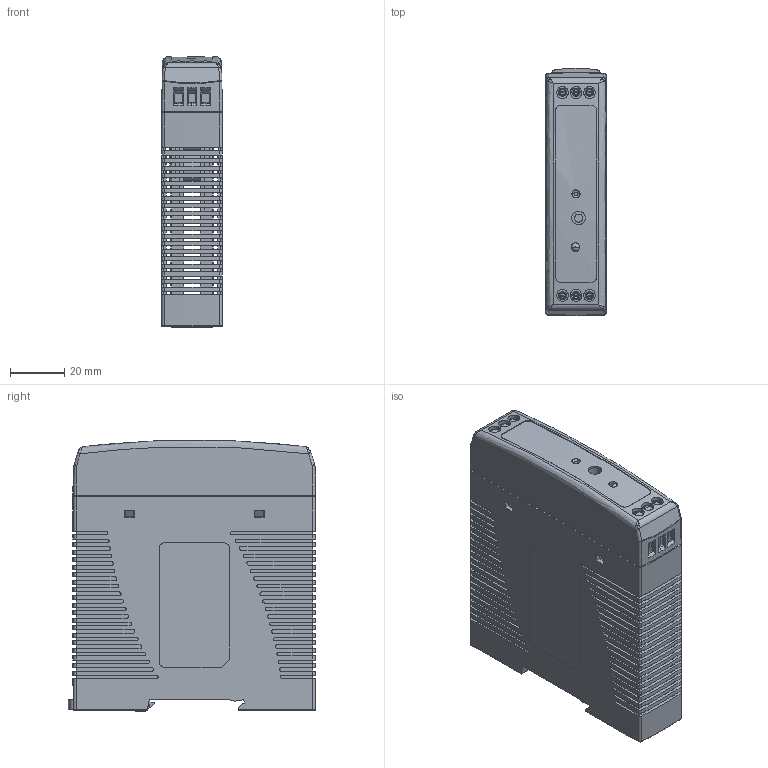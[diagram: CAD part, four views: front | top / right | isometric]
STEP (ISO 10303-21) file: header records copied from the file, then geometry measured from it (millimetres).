
FILE_DESCRIPTION(('OneSpaceDesigner STEP Export'),'2;1');
FILE_NAME('MDR-10&20.stp','2010-06-08T10:42:45',(''),(''),'OneSpace Designer STEP processor for AP214 (Solid Model)','OneSpace Designer 13.20 11-May-2005 (C) CoCreate Software GmbH','');
FILE_SCHEMA(('AUTOMOTIVE_DESIGN { 1 0 10303 214 1 1 1 1 }'));
Length unit declared in the file: millimetre
Products named in the file (13): PCB; 3P-CONECT.1.1; 3P-CONECT.1; 3P-CONECT.3; 3P-CONECT.2; 3p-conect.stp; pcb-2; LED; VR; ECSE; MDR-20
Assembly tree (13 placements, depth 4):
  MDR-20
    ECSE
    PCB
      VR
      LED
      pcb-2
      3p-conect.stp
        3P-CONECT.2
        3P-CONECT.1  x2
        3P-CONECT.3
        3P-CONECT.1.1
      PCB
        PCB
Bounding box: 22.5 x 91.69 x 100.4 mm (x, y, z)
Volume: 58992.1 mm3; surface area: 80388.6 mm2
Topology: 10 solids, 10 shells, 1778 faces, 5535 edges, 3630 vertices
Faces by surface type: plane 1191, cylinder 419, cone 91, bspline 50, torus 19, sphere 4, extrusion 4
Entity records: 62868 total; most frequent: CARTESIAN_POINT 16840, ORIENTED_EDGE 10584, DIRECTION 8327, EDGE_CURVE 5292, VERTEX_POINT 3474, VECTOR 3469, LINE 3465, AXIS2_PLACEMENT_3D 2429
